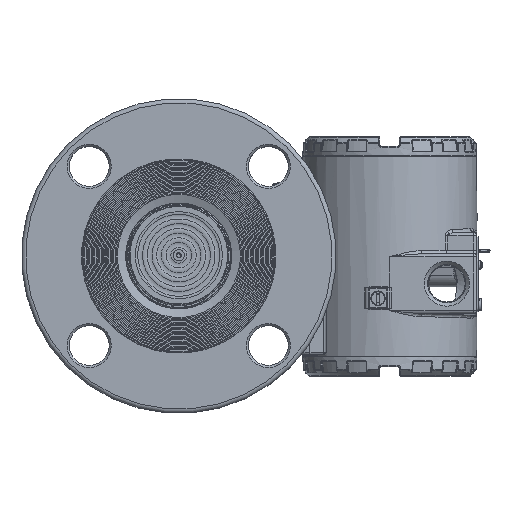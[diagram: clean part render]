
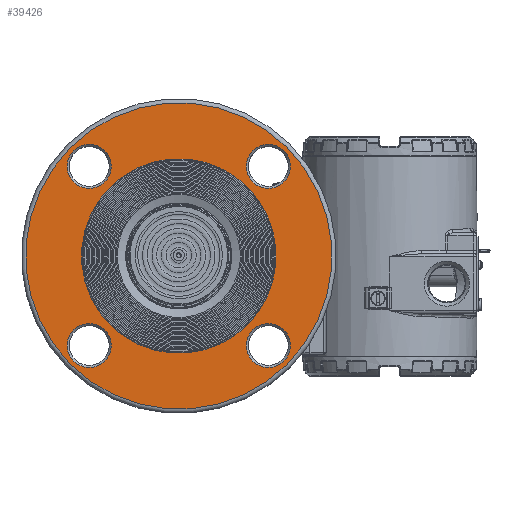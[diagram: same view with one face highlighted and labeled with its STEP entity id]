
A CAD part, top view. The second image highlights one B-rep face of the part: STEP entity #39426.
In plain terms, the highlighted planar face has unit normal (0, 0, 1).
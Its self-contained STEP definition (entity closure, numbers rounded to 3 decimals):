
#759=FACE_BOUND('',#6694,.T.);
#760=FACE_BOUND('',#6695,.T.);
#761=FACE_BOUND('',#6696,.T.);
#762=FACE_BOUND('',#6697,.T.);
#763=FACE_BOUND('',#6698,.T.);
#2795=PLANE('',#43778);
#4011=FACE_OUTER_BOUND('',#6693,.T.);
#6693=EDGE_LOOP('',(#30027));
#6694=EDGE_LOOP('',(#30028));
#6695=EDGE_LOOP('',(#30029));
#6696=EDGE_LOOP('',(#30030));
#6697=EDGE_LOOP('',(#30031));
#6698=EDGE_LOOP('',(#30032,#30033));
#12579=CIRCLE('',#43773,46.35);
#12583=CIRCLE('',#43777,46.35);
#12584=CIRCLE('',#43779,73.);
#12585=CIRCLE('',#43780,10.5);
#12586=CIRCLE('',#43781,10.5);
#12587=CIRCLE('',#43782,10.5);
#12588=CIRCLE('',#43783,10.5);
#17182=VERTEX_POINT('',#70193);
#17183=VERTEX_POINT('',#70194);
#17186=VERTEX_POINT('',#70203);
#17187=VERTEX_POINT('',#70205);
#17188=VERTEX_POINT('',#70207);
#17189=VERTEX_POINT('',#70209);
#17190=VERTEX_POINT('',#70211);
#21721=EDGE_CURVE('',#17182,#17183,#12579,.T.);
#21725=EDGE_CURVE('',#17183,#17182,#12583,.T.);
#21726=EDGE_CURVE('',#17186,#17186,#12584,.T.);
#21727=EDGE_CURVE('',#17187,#17187,#12585,.T.);
#21728=EDGE_CURVE('',#17188,#17188,#12586,.T.);
#21729=EDGE_CURVE('',#17189,#17189,#12587,.T.);
#21730=EDGE_CURVE('',#17190,#17190,#12588,.T.);
#30027=ORIENTED_EDGE('',*,*,#21726,.F.);
#30028=ORIENTED_EDGE('',*,*,#21727,.F.);
#30029=ORIENTED_EDGE('',*,*,#21728,.F.);
#30030=ORIENTED_EDGE('',*,*,#21729,.F.);
#30031=ORIENTED_EDGE('',*,*,#21730,.F.);
#30032=ORIENTED_EDGE('',*,*,#21721,.F.);
#30033=ORIENTED_EDGE('',*,*,#21725,.F.);
#39426=ADVANCED_FACE('',(#4011,#759,#760,#761,#762,#763),#2795,.T.);
#43773=AXIS2_PLACEMENT_3D('',#70195,#51793,#51794);
#43777=AXIS2_PLACEMENT_3D('',#70201,#51801,#51802);
#43778=AXIS2_PLACEMENT_3D('',#70202,#51803,#51804);
#43779=AXIS2_PLACEMENT_3D('',#70204,#51805,#51806);
#43780=AXIS2_PLACEMENT_3D('',#70206,#51807,#51808);
#43781=AXIS2_PLACEMENT_3D('',#70208,#51809,#51810);
#43782=AXIS2_PLACEMENT_3D('',#70210,#51811,#51812);
#43783=AXIS2_PLACEMENT_3D('',#70212,#51813,#51814);
#51793=DIRECTION('center_axis',(0.,0.,1.));
#51794=DIRECTION('ref_axis',(-1.,0.,0.));
#51801=DIRECTION('center_axis',(0.,0.,1.));
#51802=DIRECTION('ref_axis',(-1.,0.,0.));
#51803=DIRECTION('center_axis',(0.,0.,1.));
#51804=DIRECTION('ref_axis',(1.,0.,0.));
#51805=DIRECTION('center_axis',(0.,0.,-1.));
#51806=DIRECTION('ref_axis',(-1.,0.,0.));
#51807=DIRECTION('center_axis',(0.,0.,1.));
#51808=DIRECTION('ref_axis',(-1.,0.,0.));
#51809=DIRECTION('center_axis',(0.,0.,1.));
#51810=DIRECTION('ref_axis',(0.,1.,0.));
#51811=DIRECTION('center_axis',(0.,0.,1.));
#51812=DIRECTION('ref_axis',(1.,0.,0.));
#51813=DIRECTION('center_axis',(0.,0.,1.));
#51814=DIRECTION('ref_axis',(0.,-1.,0.));
#70193=CARTESIAN_POINT('',(46.35,0.,20.));
#70194=CARTESIAN_POINT('',(-46.35,0.,20.));
#70195=CARTESIAN_POINT('Origin',(0.,0.,20.));
#70201=CARTESIAN_POINT('Origin',(0.,0.,20.));
#70202=CARTESIAN_POINT('Origin',(0.,0.,
20.));
#70203=CARTESIAN_POINT('',(73.,0.,20.));
#70204=CARTESIAN_POINT('Origin',(0.,0.,20.));
#70205=CARTESIAN_POINT('',(10.5,60.35,20.));
#70206=CARTESIAN_POINT('Origin',(0.,60.35,20.));
#70207=CARTESIAN_POINT('',(60.35,-10.5,20.));
#70208=CARTESIAN_POINT('Origin',(60.35,0.,20.));
#70209=CARTESIAN_POINT('',(-10.5,-60.35,20.));
#70210=CARTESIAN_POINT('Origin',(0.,-60.35,20.));
#70211=CARTESIAN_POINT('',(-60.35,10.5,20.));
#70212=CARTESIAN_POINT('Origin',(-60.35,0.,20.));
